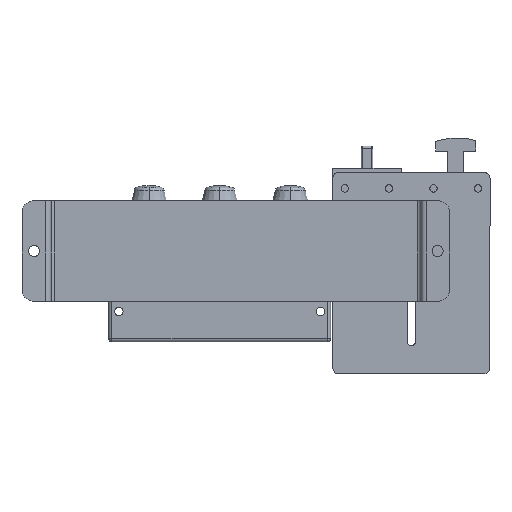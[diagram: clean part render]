
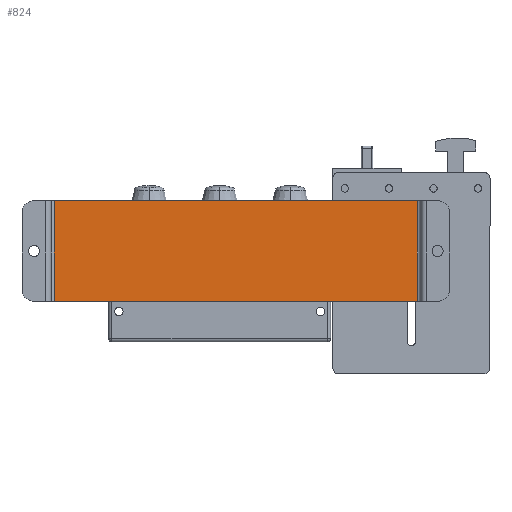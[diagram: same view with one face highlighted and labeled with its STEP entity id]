
A CAD part, front view. The second image highlights one B-rep face of the part: STEP entity #824.
In plain terms, the highlighted planar face has unit normal (0, -1, 0).
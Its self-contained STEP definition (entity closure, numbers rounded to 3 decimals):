
#824 = ADVANCED_FACE ( 'NONE', ( #4764 ), #19255, .F. ) ;
#905 = ORIENTED_EDGE ( 'NONE', *, *, #5377, .T. ) ;
#3449 = VERTEX_POINT ( 'NONE', #17556 ) ;
#3629 = VECTOR ( 'NONE', #11072, 1000. ) ;
#4417 = CARTESIAN_POINT ( 'NONE',  ( -90., 28.5, -25. ) ) ;
#4764 = FACE_OUTER_BOUND ( 'NONE', #7599, .T. ) ;
#5377 = EDGE_CURVE ( 'NONE', #13515, #3449, #6850, .T. ) ;
#6774 = EDGE_CURVE ( 'NONE', #6900, #3449, #16516, .T. ) ;
#6830 = DIRECTION ( 'NONE',  ( 0., 0., 1. ) ) ;
#6850 = LINE ( 'NONE', #18064, #19740 ) ;
#6900 = VERTEX_POINT ( 'NONE', #11341 ) ;
#6999 = ORIENTED_EDGE ( 'NONE', *, *, #21705, .T. ) ;
#7592 = CARTESIAN_POINT ( 'NONE',  ( -90., 28.5, 25. ) ) ;
#7599 = EDGE_LOOP ( 'NONE', ( #905, #13783, #11605, #6999 ) ) ;
#7783 = LINE ( 'NONE', #12722, #20673 ) ;
#8268 = AXIS2_PLACEMENT_3D ( 'NONE', #17696, #11084, #6830 ) ;
#9438 = DIRECTION ( 'NONE',  ( 1., 0., 0. ) ) ;
#10085 = CARTESIAN_POINT ( 'NONE',  ( -90., 28.5, 25. ) ) ;
#10473 = EDGE_CURVE ( 'NONE', #18047, #6900, #7783, .T. ) ;
#11072 = DIRECTION ( 'NONE',  ( 0., 0., -1. ) ) ;
#11084 = DIRECTION ( 'NONE',  ( 0., 1., 0. ) ) ;
#11341 = CARTESIAN_POINT ( 'NONE',  ( 90., 28.5, 25. ) ) ;
#11605 = ORIENTED_EDGE ( 'NONE', *, *, #10473, .F. ) ;
#12722 = CARTESIAN_POINT ( 'NONE',  ( -90., 28.5, 25. ) ) ;
#13515 = VERTEX_POINT ( 'NONE', #4417 ) ;
#13783 = ORIENTED_EDGE ( 'NONE', *, *, #6774, .F. ) ;
#16364 = DIRECTION ( 'NONE',  ( 1., 0., 0. ) ) ;
#16516 = LINE ( 'NONE', #21137, #3629 ) ;
#17556 = CARTESIAN_POINT ( 'NONE',  ( 90., 28.5, -25. ) ) ;
#17696 = CARTESIAN_POINT ( 'NONE',  ( -90., 28.5, 25. ) ) ;
#17900 = LINE ( 'NONE', #10085, #21859 ) ;
#18047 = VERTEX_POINT ( 'NONE', #7592 ) ;
#18064 = CARTESIAN_POINT ( 'NONE',  ( -90., 28.5, -25. ) ) ;
#19255 = PLANE ( 'NONE',  #8268 ) ;
#19740 = VECTOR ( 'NONE', #16364, 1000. ) ;
#20673 = VECTOR ( 'NONE', #9438, 1000. ) ;
#21137 = CARTESIAN_POINT ( 'NONE',  ( 90., 28.5, 25. ) ) ;
#21705 = EDGE_CURVE ( 'NONE', #18047, #13515, #17900, .T. ) ;
#21850 = DIRECTION ( 'NONE',  ( 0., 0., -1. ) ) ;
#21859 = VECTOR ( 'NONE', #21850, 1000. ) ;
